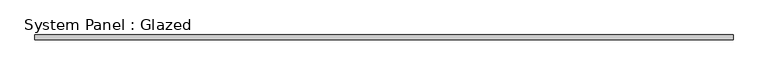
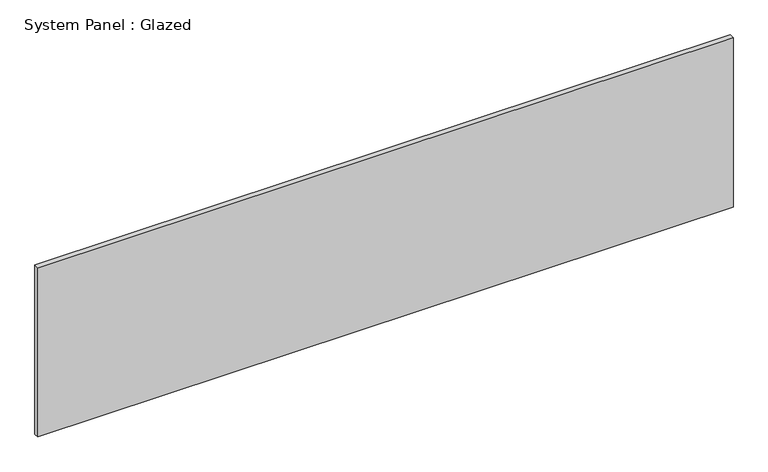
"""IFC4 building model written with IfcOpenShell, lengths in millimetres: plate geometry, System Panel : Glazed."""

import ifcopenshell
import ifcopenshell.guid

model = None  # the IFC model being written
_history = None  # IfcOwnerHistory: only IFC2X3 demands one
_inside = {}  # id of a spatial element -> (the spatial element, [elements in it])
_under = {}  # id of a project, library or spatial element -> (it, [spatial elements below it])
_declared = {}  # id of a project -> (the project, [libraries it declares])
_typed = {}  # id of a type object -> (the type object, [elements of that type])
_made_of = {}  # id of a material, layer set ... -> (it, [elements and type objects made of it])


def new_model(schema):
    """Start an empty IFC model of exactly this schema.

    Asked for "IFC4X3", IfcOpenShell would pick the latest addendum, in which some entities
    have other attributes; the version numbers below select the first issue.
    IFC2X3 requires an IfcOwnerHistory on every rooted entity: one is made here for all.
    """
    global model, _history
    if schema == "IFC4X3":
        model = ifcopenshell.file(schema_version=(4, 3, 0, 0))
    else:
        model = ifcopenshell.file(schema=schema)
    _inside.clear()
    _under.clear()
    _declared.clear()
    _typed.clear()
    _made_of.clear()
    _history = None
    if model.schema == "IFC2X3":
        org = make("IfcOrganization", Name="unknown")
        user = make(
            "IfcPersonAndOrganization",
            ThePerson=make("IfcPerson", FamilyName="unknown"),
            TheOrganization=org,
        )
        app = make(
            "IfcApplication",
            ApplicationDeveloper=org,
            Version="unknown",
            ApplicationFullName="unknown",
            ApplicationIdentifier="unknown",
        )
        _history = make(
            "IfcOwnerHistory",
            OwningUser=user,
            OwningApplication=app,
            ChangeAction="ADDED",
            CreationDate=0,
        )
    return model


def make(cls, **values):
    """One entity of the class cls with the attributes given. An attribute that is None is left unset."""
    return model.create_entity(
        cls, **{name: value for name, value in values.items() if value is not None}
    )


def rooted(cls, **values):
    """An entity with a GlobalId (a new one), such as an element, a storey or a relation."""
    return make(cls, GlobalId=ifcopenshell.guid.new(), OwnerHistory=_history, **values)


def si_unit(unit_type, name, prefix=None):
    """IfcSIUnit, for example si_unit("LENGTHUNIT", "METRE", prefix="MILLI")."""
    return make("IfcSIUnit", UnitType=unit_type, Prefix=prefix, Name=name)


def assignment(units):
    """IfcUnitAssignment: the units of a project."""
    return None if units is None else make("IfcUnitAssignment", Units=units)


def point(xyz):
    """IfcCartesianPoint."""
    return None if xyz is None else make("IfcCartesianPoint", Coordinates=xyz)


def direction(xyz):
    """IfcDirection."""
    return None if xyz is None else make("IfcDirection", DirectionRatios=xyz)


def frame(location, z_axis=None, x_axis=None):
    """IfcAxis2Placement3D, a coordinate frame: its origin and axes. An axis left out is left unset."""
    return make(
        "IfcAxis2Placement3D",
        Location=point(location),
        Axis=direction(z_axis),
        RefDirection=direction(x_axis),
    )


def origin():
    """The frame at (0, 0, 0) with its axes left unset."""
    return frame((0.0, 0.0, 0.0))


def origin_with_axes():
    """The frame at (0, 0, 0) with the z axis (0, 0, 1) and the x axis (1, 0, 0) written out."""
    return frame((0.0, 0.0, 0.0), z_axis=(0.0, 0.0, 1.0), x_axis=(1.0, 0.0, 0.0))


def place(relative_to, where):
    """IfcLocalPlacement: puts the frame where relative to a parent placement (None: the world)."""
    return make(
        "IfcLocalPlacement", PlacementRelTo=relative_to, RelativePlacement=where
    )


def context(
    kind, dimensions, precision=None, world=None, true_north=None, identifier=None
):
    """IfcGeometricRepresentationContext, for example the 3D "Model" context."""
    return make(
        "IfcGeometricRepresentationContext",
        ContextIdentifier=identifier,
        ContextType=kind,
        CoordinateSpaceDimension=dimensions,
        Precision=precision,
        WorldCoordinateSystem=world,
        TrueNorth=true_north,
    )


def project(units=None, contexts=None):
    """IfcProject with its units and contexts."""
    return rooted(
        "IfcProject",
        Name="project",
        RepresentationContexts=contexts,
        UnitsInContext=assignment(units),
    )


def spatial(cls, under=None, at=None, **own):
    """A site, building, storey or space (cls), placed at a placement, below another one or the project."""
    s = rooted(cls, ObjectPlacement=at, **own)
    if under is not None:
        _under.setdefault(under.id(), (under, []))[1].append(s)
    return s


def polyline(points):
    """IfcPolyline through the points."""
    return make("IfcPolyline", Points=[point(p) for p in points])


def outline(outer, holes=None, kind="AREA"):
    """IfcArbitraryClosedProfileDef: a profile drawn as a closed curve; with holes, ...WithVoids."""
    if holes is None:
        return make("IfcArbitraryClosedProfileDef", ProfileType=kind, OuterCurve=outer)
    return make(
        "IfcArbitraryProfileDefWithVoids",
        ProfileType=kind,
        OuterCurve=outer,
        InnerCurves=holes,
    )


def extrude(swept, where, along, depth):
    """IfcExtrudedAreaSolid: the profile swept, set in the frame where, extruded along a direction by depth."""
    return make(
        "IfcExtrudedAreaSolid",
        SweptArea=swept,
        Position=where,
        ExtrudedDirection=direction(along),
        Depth=depth,
    )


def shape(context_of_items, identifier, shape_type, items):
    """IfcShapeRepresentation: the items that make up one representation, for example the "Body"."""
    return make(
        "IfcShapeRepresentation",
        ContextOfItems=context_of_items,
        RepresentationIdentifier=identifier,
        RepresentationType=shape_type,
        Items=items,
    )


def source(mapping_origin, context_of_items, identifier, shape_type, items):
    """IfcRepresentationMap: a shape defined once, which mapped items show again and again."""
    return make(
        "IfcRepresentationMap",
        MappingOrigin=mapping_origin,
        MappedRepresentation=shape(context_of_items, identifier, shape_type, items),
    )


def transform(
    local_origin,
    x_axis=None,
    y_axis=None,
    z_axis=None,
    scale=None,
    scale2=None,
    scale3=None,
    uniform=True,
):
    """IfcCartesianTransformationOperator3D, or its non-uniform kind. x_axis, y_axis, z_axis: its Axis1, 2, 3."""
    if uniform:
        return make(
            "IfcCartesianTransformationOperator3D",
            Axis1=direction(x_axis),
            Axis2=direction(y_axis),
            LocalOrigin=point(local_origin),
            Scale=scale,
            Axis3=direction(z_axis),
        )
    return make(
        "IfcCartesianTransformationOperator3DnonUniform",
        Axis1=direction(x_axis),
        Axis2=direction(y_axis),
        LocalOrigin=point(local_origin),
        Scale=scale,
        Axis3=direction(z_axis),
        Scale2=scale2,
        Scale3=scale3,
    )


def mapped(mapping_source, mapping_target):
    """IfcMappedItem: shows the shape of a source again, moved by a transform."""
    return make(
        "IfcMappedItem", MappingSource=mapping_source, MappingTarget=mapping_target
    )


def made_of(thing, what):
    """Note that an element or type object is made of a material, layer set ...; save() writes the relation."""
    if what is not None:
        _made_of.setdefault(what.id(), (what, []))[1].append(thing)
    return thing


def element(
    cls,
    number,
    at=None,
    inside=None,
    cuts=None,
    type_object=None,
    material=None,
    context=None,
    identifier="Body",
    shape_type=None,
    held_by="IfcProductDefinitionShape",
    body=None,
    shapes=None,
    **own,
):
    """One element of the class cls, such as IfcWall. Its Tag is "e" and its number.

    at: its placement. inside: the storey or other place that contains it. cuts: it is an
    opening in that element (IfcRelVoidsElement). A single representation is given by context,
    identifier, shape_type and body (its items); several are given by shapes. held_by: the class
    of the entity that holds the representations. save() writes the other relations.
    """
    e = rooted(cls, Tag="e%d" % number, ObjectPlacement=at, **own)
    if body is not None:
        shapes = [shape(context, identifier, shape_type, body)]
    if shapes is not None:
        e.Representation = make(held_by, Representations=shapes)
    if inside is not None:
        _inside.setdefault(inside.id(), (inside, []))[1].append(e)
    if cuts is not None:
        rooted(
            "IfcRelVoidsElement", RelatingBuildingElement=cuts, RelatedOpeningElement=e
        )
    if type_object is not None:
        _typed.setdefault(type_object.id(), (type_object, []))[1].append(e)
    return made_of(e, material)


def aggregate(whole, parts):
    """IfcRelAggregates: a whole, such as a stair, and the parts it consists of."""
    return rooted("IfcRelAggregates", RelatingObject=whole, RelatedObjects=parts)


def save(model, path):
    """Write the relations noted so far, then the file.

    IfcRelAggregates (storeys below a building ...), IfcRelContainedInSpatialStructure (elements
    in a storey), IfcRelDefinesByType, IfcRelAssociatesMaterial and IfcRelDeclares: one each for
    every whole, place, type object, material and project.
    """
    for whole, parts in _under.values():
        aggregate(whole, parts)
    for where, things in _inside.values():
        rooted(
            "IfcRelContainedInSpatialStructure",
            RelatedElements=things,
            RelatingStructure=where,
        )
    for kind, things in _typed.values():
        rooted("IfcRelDefinesByType", RelatedObjects=things, RelatingType=kind)
    for what, things in _made_of.values():
        rooted("IfcRelAssociatesMaterial", RelatedObjects=things, RelatingMaterial=what)
    for by, libraries in _declared.values():
        rooted("IfcRelDeclares", RelatingContext=by, RelatedDefinitions=libraries)
    model.write(path)


def system_panel_glazed_78471eb0(model_context):
    return source(origin(), model_context, "Body", "SweptSolid", [
        extrude(outline(polyline([(1747.5, -49.5), (-1747.5, -49.5), (-1747.5, -24.5), (1747.5, -24.5), (1747.5, -49.5)])), origin_with_axes(), (0.0, 0.0, 1.0), 900.0),
    ])


if __name__ == "__main__":
    model = new_model("IFC4")
    model_context = context("Model", 3, world=origin())
    ifc_project = project(units=[si_unit("LENGTHUNIT", "METRE", prefix="MILLI")], contexts=[model_context])
    site = spatial("IfcSite", under=ifc_project)
    building = spatial("IfcBuilding", under=site)
    placement = place(None, origin())
    system_panel_glazed_shape = system_panel_glazed_78471eb0(model_context)
    element("IfcPlate", 1, ObjectType="System Panel : Glazed", at=placement, inside=building, context=model_context, shape_type="MappedRepresentation", body=[
        mapped(system_panel_glazed_shape, transform((0.0, 0.0, 0.0), x_axis=(1.0, 0.0, 0.0), y_axis=(0.0, 1.0, 0.0), z_axis=(0.0, 0.0, 1.0))),
    ])
    save(model, "model.ifc")
